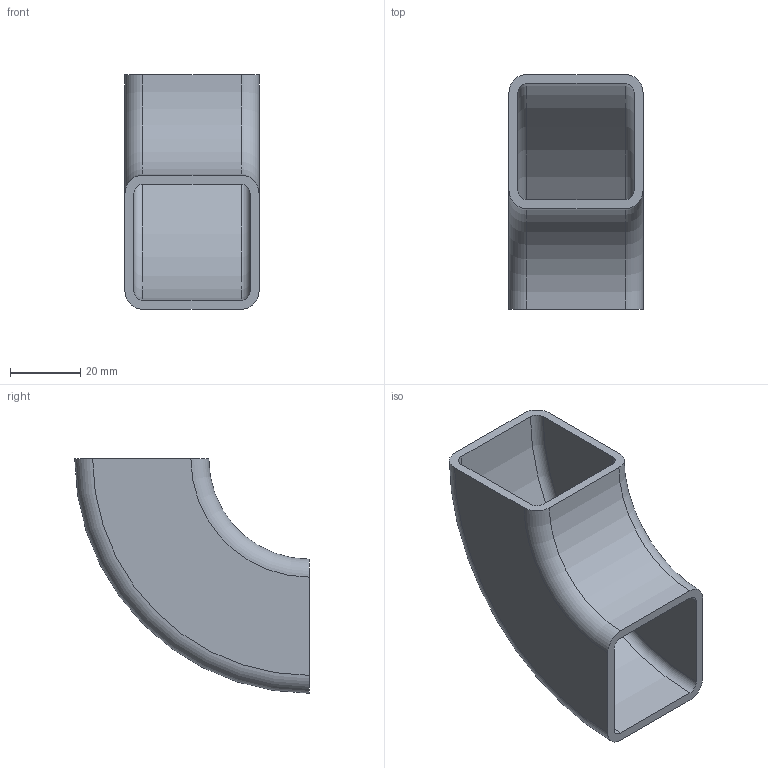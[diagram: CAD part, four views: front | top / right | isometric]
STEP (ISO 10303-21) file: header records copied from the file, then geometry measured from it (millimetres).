
FILE_DESCRIPTION((''),'2;1');
FILE_NAME('C:\Documents and Settings\bamfomg\Desktop\Owens corners\STP FILES\1.5x1.5x0.100 - Steel.stp','2011-03-21T13:13:05',('bamfomg'),(''),'Autodesk Inventor 2011','Autodesk Inventor 2011','');
FILE_SCHEMA(('AUTOMOTIVE_DESIGN { 1 0 10303 214 1 1 1 1 }'));
Length unit declared in the file: inch
Products named in the file (1): Square Tube Corners
Bounding box: 38.1 x 66.67 x 66.67 mm (x, y, z)
Volume: 25784.9 mm3; surface area: 20992.4 mm2
Topology: 1 solids, 1 shells, 18 faces, 48 edges, 32 vertices
Faces by surface type: torus 8, plane 6, cylinder 4
Entity records: 616 total; most frequent: DIRECTION 118, CARTESIAN_POINT 99, ORIENTED_EDGE 96, AXIS2_PLACEMENT_3D 51, EDGE_CURVE 48, VERTEX_POINT 32, CIRCLE 32, EDGE_LOOP 20
